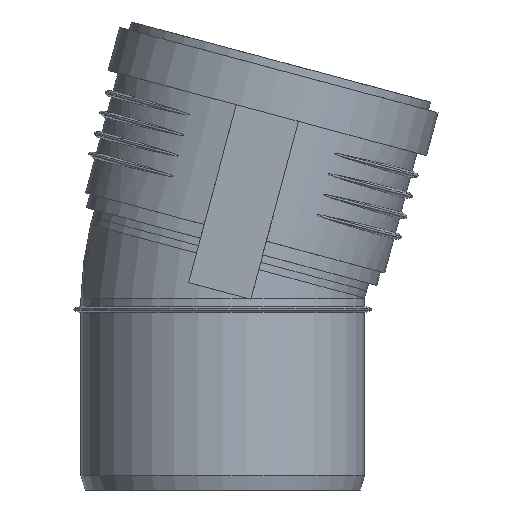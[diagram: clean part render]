
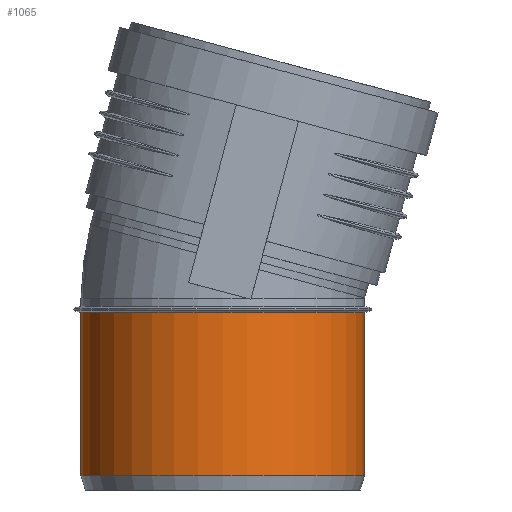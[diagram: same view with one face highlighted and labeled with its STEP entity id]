
A CAD part, front view. The second image highlights one B-rep face of the part: STEP entity #1065.
In plain terms, the highlighted cylindrical face has radius 55.1 mm (diameter 110.2 mm), a full revolution.
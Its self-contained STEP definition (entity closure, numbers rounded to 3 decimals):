
#190=CYLINDRICAL_SURFACE($,#1140,55.1);
#209=FACE_BOUND($,#314,.T.);
#252=FACE_OUTER_BOUND($,#313,.T.);
#313=EDGE_LOOP($,(#716));
#314=EDGE_LOOP($,(#717));
#414=CIRCLE($,#1138,55.1);
#416=CIRCLE($,#1141,55.1);
#469=VERTEX_POINT($,#1555);
#471=VERTEX_POINT($,#1560);
#575=EDGE_CURVE($,#469,#469,#414,.T.);
#577=EDGE_CURVE($,#471,#471,#416,.T.);
#716=ORIENTED_EDGE($,*,*,#577,.T.);
#717=ORIENTED_EDGE($,*,*,#575,.F.);
#1065=ADVANCED_FACE($,(#252,#209),#190,.T.);
#1138=AXIS2_PLACEMENT_3D($,#1556,#1267,#1268);
#1140=AXIS2_PLACEMENT_3D($,#1559,#1271,#1272);
#1141=AXIS2_PLACEMENT_3D($,#1561,#1273,#1274);
#1267=DIRECTION('center_axis',(0.,0.,-1.));
#1268=DIRECTION('ref_axis',(-1.,0.,0.));
#1271=DIRECTION('center_axis',(0.,0.,1.));
#1272=DIRECTION('ref_axis',(-1.,0.,0.));
#1273=DIRECTION('center_axis',(0.,0.,-1.));
#1274=DIRECTION('ref_axis',(-1.,0.,0.));
#1555=CARTESIAN_POINT('',(55.1,0.,5.5));
#1556=CARTESIAN_POINT('Origin',(0.,0.,5.5));
#1559=CARTESIAN_POINT('Origin',(0.,0.,0.));
#1560=CARTESIAN_POINT('',(-55.1,0.,69.1));
#1561=CARTESIAN_POINT('Origin',(0.,0.,69.1));
